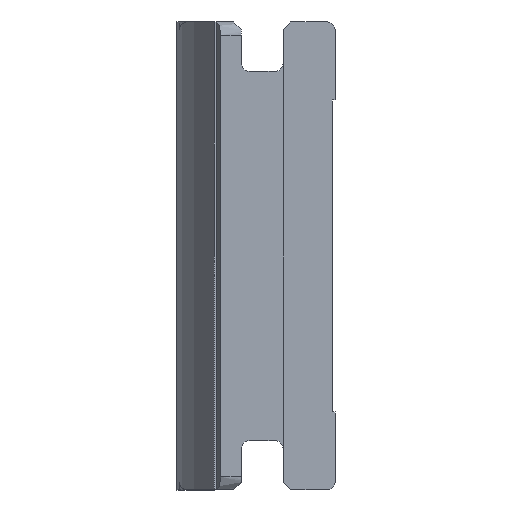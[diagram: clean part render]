
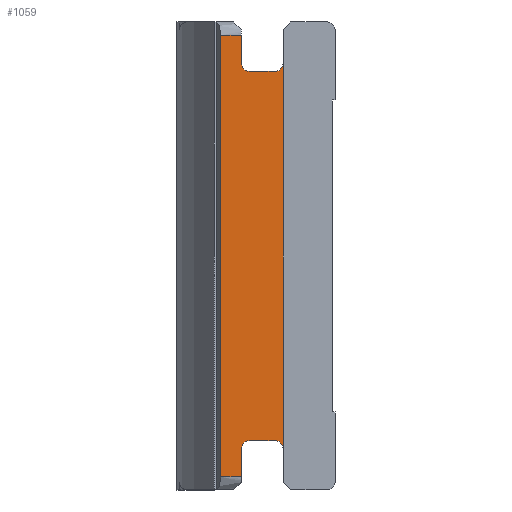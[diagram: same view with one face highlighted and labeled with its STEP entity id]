
A CAD part, left-side view. The second image highlights one B-rep face of the part: STEP entity #1059.
In plain terms, the highlighted planar face has unit normal (-1, 0, 0).
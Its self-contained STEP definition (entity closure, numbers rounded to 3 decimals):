
#2 = ORIENTED_EDGE ( 'NONE', *, *, #1644, .F. ) ;
#22 = FACE_OUTER_BOUND ( 'NONE', #551, .T. ) ;
#31 = CARTESIAN_POINT ( 'NONE',  ( 10., 1.9, 8.5 ) ) ;
#62 = CARTESIAN_POINT ( 'NONE',  ( 10., 4.3, -8.5 ) ) ;
#64 = VERTEX_POINT ( 'NONE', #1788 ) ;
#79 = VERTEX_POINT ( 'NONE', #1456 ) ;
#96 = DIRECTION ( 'NONE',  ( 0., 0., -1. ) ) ;
#99 = EDGE_CURVE ( 'NONE', #1131, #79, #912, .T. ) ;
#130 = DIRECTION ( 'NONE',  ( -1., 0., 0. ) ) ;
#164 = DIRECTION ( 'NONE',  ( -1., 0., 0. ) ) ;
#165 = DIRECTION ( 'NONE',  ( 0., 0., -1. ) ) ;
#167 = VERTEX_POINT ( 'NONE', #248 ) ;
#184 = DIRECTION ( 'NONE',  ( -1., 0., 0. ) ) ;
#193 = CARTESIAN_POINT ( 'NONE',  ( 10., 1.9, -7.4 ) ) ;
#204 = ORIENTED_EDGE ( 'NONE', *, *, #290, .F. ) ;
#211 = VECTOR ( 'NONE', #489, 1000. ) ;
#243 = AXIS2_PLACEMENT_3D ( 'NONE', #756, #164, #1455 ) ;
#248 = CARTESIAN_POINT ( 'NONE',  ( 10., 4.3, 8.5 ) ) ;
#281 = DIRECTION ( 'NONE',  ( 0., 0., -1. ) ) ;
#284 = DIRECTION ( 'NONE',  ( -1., 0., 0. ) ) ;
#290 = EDGE_CURVE ( 'NONE', #1212, #1091, #555, .T. ) ;
#295 = VECTOR ( 'NONE', #96, 1000. ) ;
#366 = CIRCLE ( 'NONE', #243, 0.3 ) ;
#370 = ORIENTED_EDGE ( 'NONE', *, *, #981, .F. ) ;
#400 = ORIENTED_EDGE ( 'NONE', *, *, #427, .T. ) ;
#420 = CARTESIAN_POINT ( 'NONE',  ( 10., 2.2, -7.4 ) ) ;
#427 = EDGE_CURVE ( 'NONE', #1103, #1091, #930, .T. ) ;
#432 = DIRECTION ( 'NONE',  ( 0., 0., -1. ) ) ;
#449 = CIRCLE ( 'NONE', #1172, 0.3 ) ;
#452 = EDGE_CURVE ( 'NONE', #1351, #1308, #1785, .T. ) ;
#463 = EDGE_CURVE ( 'NONE', #584, #1212, #366, .T. ) ;
#467 = VERTEX_POINT ( 'NONE', #193 ) ;
#489 = DIRECTION ( 'NONE',  ( 0., -1., 0. ) ) ;
#508 = ORIENTED_EDGE ( 'NONE', *, *, #452, .F. ) ;
#510 = EDGE_CURVE ( 'NONE', #79, #1351, #449, .T. ) ;
#517 = VECTOR ( 'NONE', #1149, 1000. ) ;
#551 = EDGE_LOOP ( 'NONE', ( #1705, #608, #370, #400, #204, #1821, #2, #802, #1708, #1278, #508, #1836 ) ) ;
#555 = LINE ( 'NONE', #1567, #1120 ) ;
#569 = CIRCLE ( 'NONE', #1285, 0.3 ) ;
#584 = VERTEX_POINT ( 'NONE', #1151 ) ;
#607 = AXIS2_PLACEMENT_3D ( 'NONE', #420, #284, #1281 ) ;
#608 = ORIENTED_EDGE ( 'NONE', *, *, #1451, .T. ) ;
#610 = DIRECTION ( 'NONE',  ( 0., 1., 0. ) ) ;
#620 = CARTESIAN_POINT ( 'NONE',  ( 10., 3.5, -8.5 ) ) ;
#756 = CARTESIAN_POINT ( 'NONE',  ( 10., 3.2, -7.4 ) ) ;
#802 = ORIENTED_EDGE ( 'NONE', *, *, #971, .F. ) ;
#827 = CARTESIAN_POINT ( 'NONE',  ( 10., 1.9, -29.536 ) ) ;
#850 = DIRECTION ( 'NONE',  ( 0., 0., 1. ) ) ;
#862 = CARTESIAN_POINT ( 'NONE',  ( 10., 3.2, -7.1 ) ) ;
#890 = CARTESIAN_POINT ( 'NONE',  ( 10., 3.5, 8.7 ) ) ;
#899 = CARTESIAN_POINT ( 'NONE',  ( 10., 1.9, -8.5 ) ) ;
#912 = LINE ( 'NONE', #890, #947 ) ;
#930 = LINE ( 'NONE', #899, #211 ) ;
#947 = VECTOR ( 'NONE', #165, 1000. ) ;
#971 = EDGE_CURVE ( 'NONE', #467, #1399, #1817, .T. ) ;
#981 = EDGE_CURVE ( 'NONE', #1103, #167, #1274, .T. ) ;
#993 = AXIS2_PLACEMENT_3D ( 'NONE', #1040, #1352, #1784 ) ;
#1016 = CARTESIAN_POINT ( 'NONE',  ( 10., 2.2, -7.1 ) ) ;
#1031 = CARTESIAN_POINT ( 'NONE',  ( 10., 3.2, 7.4 ) ) ;
#1040 = CARTESIAN_POINT ( 'NONE',  ( 10., 1.9, -29.536 ) ) ;
#1059 = ADVANCED_FACE ( 'NONE', ( #22 ), #1793, .F. ) ;
#1089 = VECTOR ( 'NONE', #610, 1000. ) ;
#1091 = VERTEX_POINT ( 'NONE', #620 ) ;
#1103 = VERTEX_POINT ( 'NONE', #62 ) ;
#1118 = VECTOR ( 'NONE', #1638, 1000. ) ;
#1120 = VECTOR ( 'NONE', #432, 1000. ) ;
#1131 = VERTEX_POINT ( 'NONE', #1492 ) ;
#1149 = DIRECTION ( 'NONE',  ( 0., 1., 0. ) ) ;
#1151 = CARTESIAN_POINT ( 'NONE',  ( 10., 3.2, -7.1 ) ) ;
#1158 = CARTESIAN_POINT ( 'NONE',  ( 10., 2.2, 7.4 ) ) ;
#1168 = VECTOR ( 'NONE', #850, 1000. ) ;
#1172 = AXIS2_PLACEMENT_3D ( 'NONE', #1031, #184, #1197 ) ;
#1197 = DIRECTION ( 'NONE',  ( 0., 0., -1. ) ) ;
#1212 = VERTEX_POINT ( 'NONE', #1371 ) ;
#1266 = CARTESIAN_POINT ( 'NONE',  ( 10., 3.2, 7.1 ) ) ;
#1274 = LINE ( 'NONE', #1433, #1168 ) ;
#1278 = ORIENTED_EDGE ( 'NONE', *, *, #1575, .F. ) ;
#1281 = DIRECTION ( 'NONE',  ( 0., 0., -1. ) ) ;
#1285 = AXIS2_PLACEMENT_3D ( 'NONE', #1158, #130, #281 ) ;
#1308 = VERTEX_POINT ( 'NONE', #1856 ) ;
#1321 = LINE ( 'NONE', #31, #1089 ) ;
#1351 = VERTEX_POINT ( 'NONE', #1266 ) ;
#1352 = DIRECTION ( 'NONE',  ( 1., 0., 0. ) ) ;
#1371 = CARTESIAN_POINT ( 'NONE',  ( 10., 3.5, -7.4 ) ) ;
#1396 = LINE ( 'NONE', #827, #295 ) ;
#1399 = VERTEX_POINT ( 'NONE', #1016 ) ;
#1433 = CARTESIAN_POINT ( 'NONE',  ( 10., 4.3, -29.536 ) ) ;
#1451 = EDGE_CURVE ( 'NONE', #1131, #167, #1321, .T. ) ;
#1455 = DIRECTION ( 'NONE',  ( 0., 0., -1. ) ) ;
#1456 = CARTESIAN_POINT ( 'NONE',  ( 10., 3.5, 7.4 ) ) ;
#1484 = CARTESIAN_POINT ( 'NONE',  ( 10., 3.2, 7.1 ) ) ;
#1492 = CARTESIAN_POINT ( 'NONE',  ( 10., 3.5, 8.5 ) ) ;
#1567 = CARTESIAN_POINT ( 'NONE',  ( 10., 3.5, -8.7 ) ) ;
#1575 = EDGE_CURVE ( 'NONE', #1308, #64, #569, .T. ) ;
#1638 = DIRECTION ( 'NONE',  ( 0., -1., 0. ) ) ;
#1644 = EDGE_CURVE ( 'NONE', #1399, #584, #1860, .T. ) ;
#1705 = ORIENTED_EDGE ( 'NONE', *, *, #99, .F. ) ;
#1708 = ORIENTED_EDGE ( 'NONE', *, *, #1861, .F. ) ;
#1784 = DIRECTION ( 'NONE',  ( 0., 0., -1. ) ) ;
#1785 = LINE ( 'NONE', #1484, #1118 ) ;
#1788 = CARTESIAN_POINT ( 'NONE',  ( 10., 1.9, 7.4 ) ) ;
#1793 = PLANE ( 'NONE',  #993 ) ;
#1817 = CIRCLE ( 'NONE', #607, 0.3 ) ;
#1821 = ORIENTED_EDGE ( 'NONE', *, *, #463, .F. ) ;
#1836 = ORIENTED_EDGE ( 'NONE', *, *, #510, .F. ) ;
#1856 = CARTESIAN_POINT ( 'NONE',  ( 10., 2.2, 7.1 ) ) ;
#1860 = LINE ( 'NONE', #862, #517 ) ;
#1861 = EDGE_CURVE ( 'NONE', #64, #467, #1396, .T. ) ;
